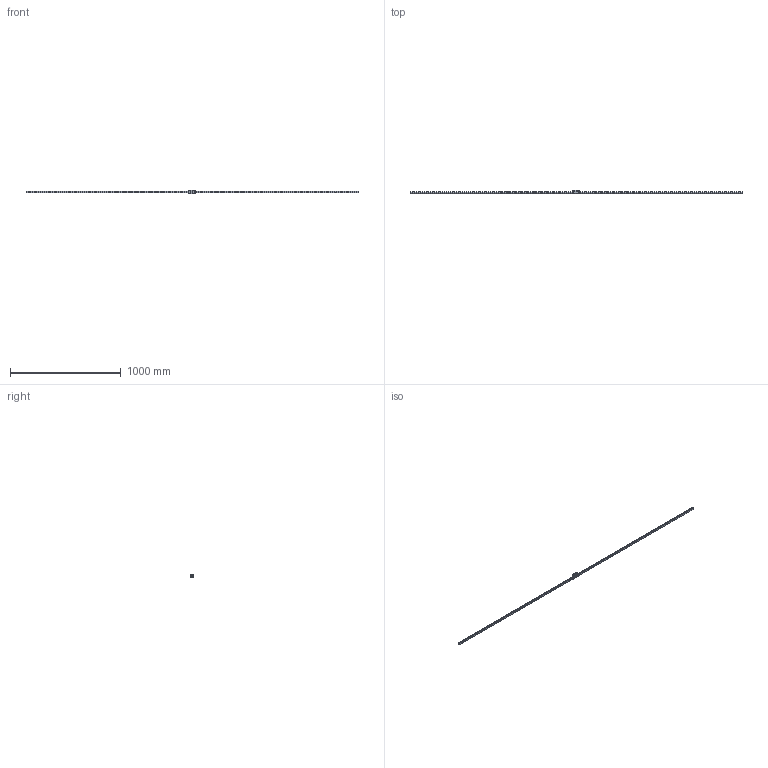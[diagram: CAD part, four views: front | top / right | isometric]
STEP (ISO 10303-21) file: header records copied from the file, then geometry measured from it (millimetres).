
FILE_DESCRIPTION(/* description */ ('STEP AP214'),/* implementation_level */ '2;1');
FILE_NAME(/* name */ 'HDR15R1SS-3000L_G30_0_PB107_1469-3_0_0_01',/* time_stamp */ '2023-06-30T10:07:29+02:00',/* author */ ('License CC BY-ND 4.0'),/* organization */ ('CADENAS'),/* preprocessor_version */ 'ST-DEVELOPER v19.3',/* originating_system */ 'PARTsolutions',/* authorisation */ ' ');
FILE_SCHEMA (('AUTOMOTIVE_DESIGN {1 0 10303 214 3 1 1}'));
Length unit declared in the file: millimetre
Products named in the file (4): HDR15R1SS-3000L_G30_0_PB107_1469-3_0_0_01; hsr_ftht_PB107_grease_nipple_joint; HDR15RSSPB1071 Slider; HDR15R1300030 Rail
Assembly tree (3 placements, depth 2):
  HDR15R1SS-3000L_G30_0_PB107_1469-3_0_0_01
    hsr_ftht_PB107_grease_nipple_joint
    HDR15RSSPB1071 Slider
    HDR15R1300030 Rail
Bounding box: 3000 x 28 x 34 mm (x, y, z)
Volume: 612734.5 mm3; surface area: 218997.8 mm2
Topology: 3 solids, 3 shells, 335 faces, 795 edges, 523 vertices
Faces by surface type: cylinder 169, plane 153, cone 12, sphere 1
Full cylindrical faces by diameter (mm): 2.9 x4, 3 x1, 3.242 x6, 3.5 x3, 4.5 x51, 7.5 x50
Entity records: 9378 total; most frequent: DIRECTION 1681, CARTESIAN_POINT 1519, ORIENTED_EDGE 1318, AXIS2_PLACEMENT_3D 683, EDGE_CURVE 659, FACE_BOUND 626, EDGE_LOOP 620, VERTEX_POINT 521
